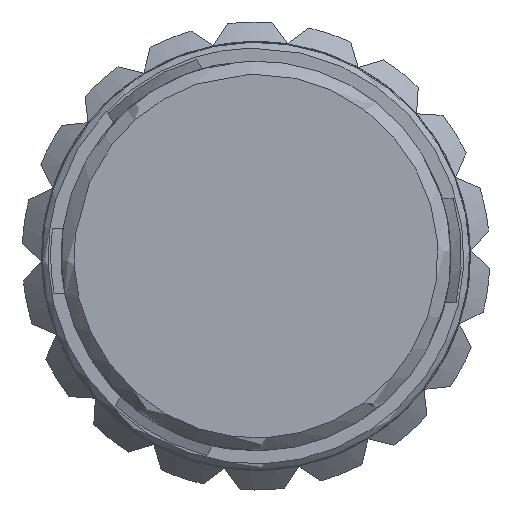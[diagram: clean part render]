
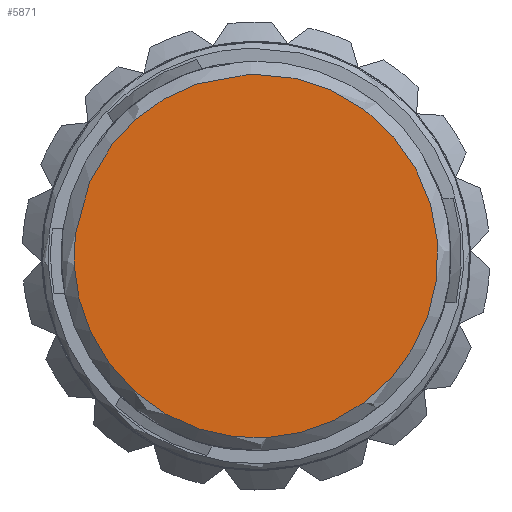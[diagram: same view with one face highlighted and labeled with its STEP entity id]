
A CAD part, left-side view. The second image highlights one B-rep face of the part: STEP entity #5871.
In plain terms, the highlighted planar face has unit normal (-1, 0, 0) as drawn and (0, 0, 1) by its records, which use the part's own axes.
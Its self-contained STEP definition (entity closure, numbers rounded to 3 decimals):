
#73 = CARTESIAN_POINT ( 'NONE',  ( -7., 0., 58. ) ) ;
#468 = EDGE_LOOP ( 'NONE', ( #1013 ) ) ;
#1013 = ORIENTED_EDGE ( 'NONE', *, *, #7493, .F. ) ;
#2841 = CARTESIAN_POINT ( 'NONE',  ( 7., 14., 58. ) ) ;
#3096 = DIRECTION ( 'NONE',  ( 0., 0., -1. ) ) ;
#3967 = CARTESIAN_POINT ( 'NONE',  ( 7., 0., 58. ) ) ;
#4637 = AXIS2_PLACEMENT_3D ( 'NONE', #15948, #3096, #5578 ) ;
#5578 = DIRECTION ( 'NONE',  ( -1., 0., 0. ) ) ;
#5871 = ADVANCED_FACE ( 'NONE', ( #10381 ), #9604, .F. ) ;
#6137 = VERTEX_POINT ( 'NONE', #7330 ) ;
#7330 = CARTESIAN_POINT ( 'NONE',  ( 7., 0., 58. ) ) ;
#7493 = EDGE_CURVE ( 'NONE', #6137, #6137, #10350, .T. ) ;
#7947 = CARTESIAN_POINT ( 'NONE',  ( -7., 14., 58. ) ) ;
#9604 = PLANE ( 'NONE',  #4637 ) ;
#10350 =( BOUNDED_CURVE ( )  B_SPLINE_CURVE ( 3, ( #11765, #13008, #14124, #73, #7947, #2841, #3967 ),
 .UNSPECIFIED., .T., .F. ) 
 B_SPLINE_CURVE_WITH_KNOTS ( ( 4, 3, 4 ),
 ( 0., 0.5, 1. ),
 .UNSPECIFIED. ) 
 CURVE ( )  GEOMETRIC_REPRESENTATION_ITEM ( )  RATIONAL_B_SPLINE_CURVE ( ( 1., 0.333, 0.333, 1., 0.333, 0.333, 1. ) ) 
 REPRESENTATION_ITEM ( '' )  );
#10381 = FACE_OUTER_BOUND ( 'NONE', #468, .T. ) ;
#11765 = CARTESIAN_POINT ( 'NONE',  ( 7., 0., 58. ) ) ;
#13008 = CARTESIAN_POINT ( 'NONE',  ( 7., -14., 58. ) ) ;
#14124 = CARTESIAN_POINT ( 'NONE',  ( -7., -14., 58. ) ) ;
#15948 = CARTESIAN_POINT ( 'NONE',  ( 0., 0., 58. ) ) ;
